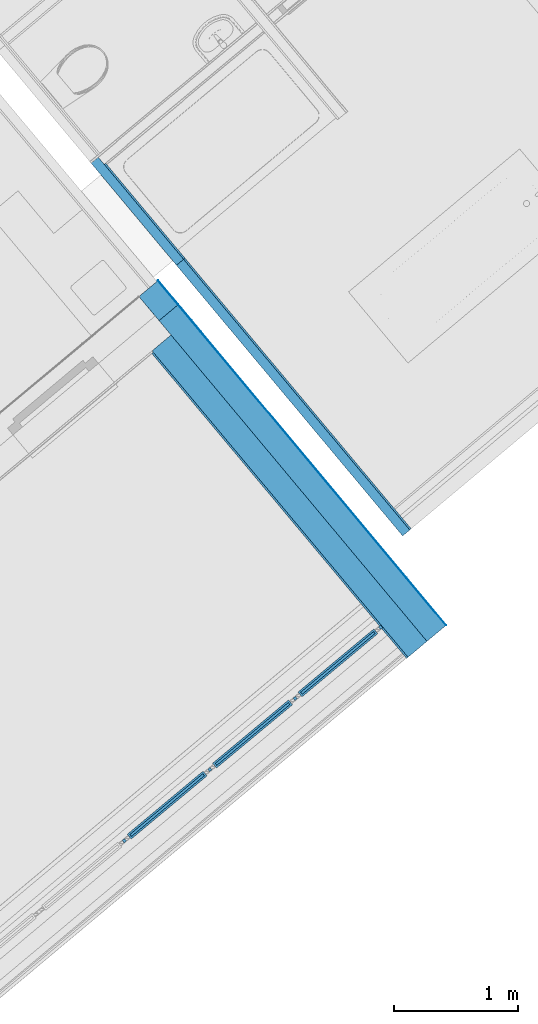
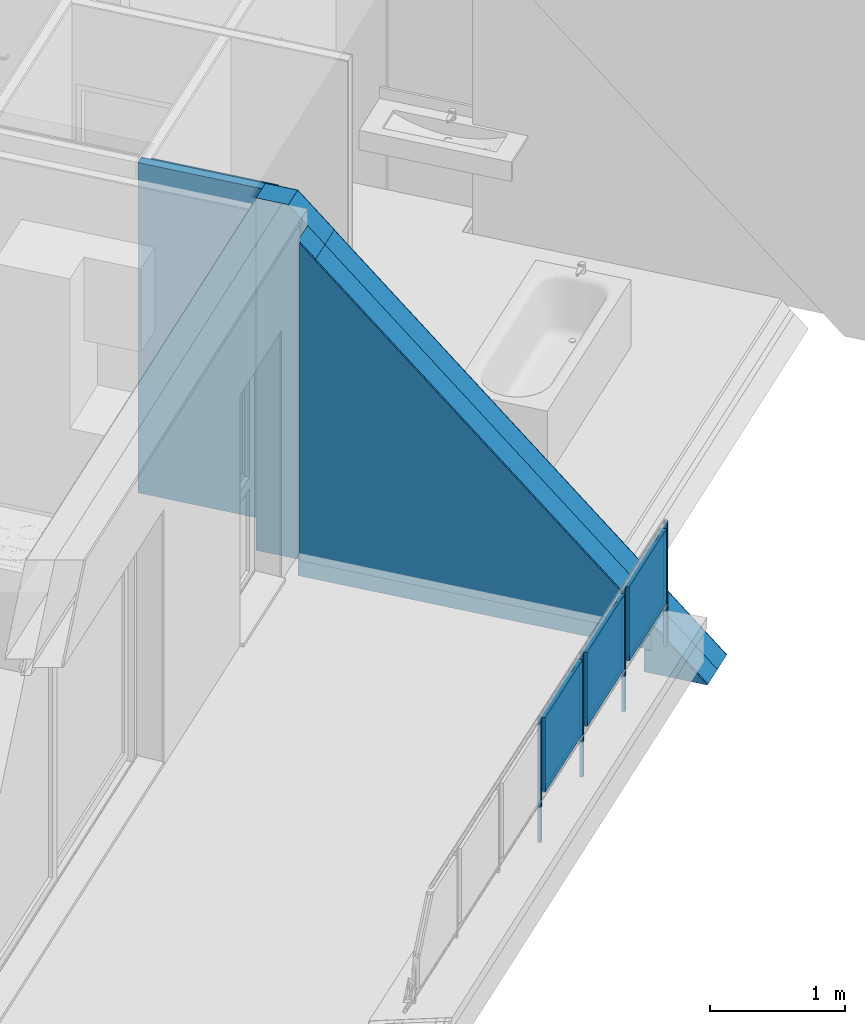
# One storey, part 17 of 50: 16 building element parts, 3 elements without a shape of their own.
"""IFC4 building model written with IfcOpenShell, lengths in metres."""

from ifc_helpers import new_model, entity, si_unit, converted_unit, derived_unit, direction, frame, origin_with_axes, place, context, subcontext, project, spatial, polygons, material, type_object, element, aggregate, save


model = new_model("IFC4")

# Units and contexts
model_context = context("Model", 3, precision=1e-05, world=origin_with_axes(), true_north=direction((0.0, 1.0)))
body_context = subcontext(model_context, "Body", "Model", "MODEL_VIEW")
ifc_project = project(units=[si_unit("LENGTHUNIT", "METRE"), si_unit("AREAUNIT", "SQUARE_METRE"), si_unit("VOLUMEUNIT", "CUBIC_METRE"), converted_unit("PLANEANGLEUNIT", "DEGREE", entity("IfcPlaneAngleMeasure", 0.0174532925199), si_unit("PLANEANGLEUNIT", "RADIAN"), dimensions=[0, 0, 0, 0, 0, 0, 0]), converted_unit("TIMEUNIT", "Year", entity("IfcTimeMeasure", 31556926.0), si_unit("TIMEUNIT", "SECOND"), dimensions=[0, 0, 1, 0, 0, 0, 0]), si_unit("MASSUNIT", "GRAM", prefix="KILO"), si_unit("THERMODYNAMICTEMPERATUREUNIT", "DEGREE_CELSIUS"), si_unit("LUMINOUSINTENSITYUNIT", "LUMEN"), si_unit("ENERGYUNIT", "JOULE", prefix="MEGA"), derived_unit("THERMALCONDUCTANCEUNIT", [(si_unit("POWERUNIT", "WATT"), 1), (si_unit("LENGTHUNIT", "METRE"), -1), (si_unit("THERMODYNAMICTEMPERATUREUNIT", "KELVIN"), -1)]), derived_unit("SPECIFICHEATCAPACITYUNIT", [(si_unit("ENERGYUNIT", "JOULE"), 1), (si_unit("MASSUNIT", "GRAM", prefix="KILO"), -1), (si_unit("THERMODYNAMICTEMPERATUREUNIT", "KELVIN"), -1)]), derived_unit("MASSDENSITYUNIT", [(si_unit("MASSUNIT", "GRAM", prefix="KILO"), 1), (si_unit("VOLUMEUNIT", "CUBIC_METRE"), -1)])], contexts=[model_context])

# Site, building, storey, space
site_placement = place(None, frame((-0.00153261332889, -0.00661245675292, 0.0), z_axis=(0.0, 0.0, 1.0), x_axis=(1.0, 0.0, 0.0)))
site = spatial("IfcSite", under=ifc_project, at=site_placement, Name="Gelände", CompositionType="ELEMENT")
building_placement = place(site_placement, origin_with_axes())
building = spatial("IfcBuilding", under=site, at=building_placement, Name="Gebäude", CompositionType="ELEMENT")
storey_placement = place(building_placement, frame((0.0, 0.0, 8.66), z_axis=(0.0, 0.0, 1.0), x_axis=(1.0, 0.0, 0.0)))
storey = spatial("IfcBuildingStorey", under=building, at=storey_placement, Name="DG2", CompositionType="ELEMENT", Elevation=8.66)
space_1_placement = place(storey_placement, frame((2.09467668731, 18.9197573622, 0.22), z_axis=(0.0, 0.0, 1.0), x_axis=(0.640870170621, -0.76764928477, 0.0)))
space_1 = spatial("IfcSpace", under=storey, at=space_1_placement, CompositionType="ELEMENT", PredefinedType="NOTDEFINED")

# Wall, building element parts
wall_type_1 = type_object("IfcWallType", Name="LB 9,0 cm einfache Vorsatzschale  90", PredefinedType="NOTDEFINED")
wall_1_placement = place(space_1_placement, frame((3.83735876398, 0.00169667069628, -0.22), z_axis=(0.0, 0.0, 1.0), x_axis=(-0.999999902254, -0.000442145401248, 0.0)))
wall_1 = element("IfcWall", 1, at=wall_1_placement, inside=space_1, type_object=wall_type_1, Name="Wand-006", PredefinedType="NOTDEFINED")
ifc_material_1 = material(Name="Mineralwolle weich")
building_element_part_1_placement = place(wall_1_placement, origin_with_axes())
building_element_part_1 = element("IfcBuildingElementPart", 2, at=building_element_part_1_placement, material=ifc_material_1, Name="Mineralwolle weich", PredefinedType="NOTDEFINED", context=body_context, shape_type="Tessellation", body=[
    polygons([(2.8510800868, 0.015, 2.98), (2.8510800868, 0.015, 2.85108792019), (-4.1342974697e-06, 0.0149999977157, 4.13429810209e-06), (3.92736578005, 0.015, 0.0), (3.92736578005, 0.015, 2.98), (2.85130138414, 0.09, 2.98), (2.85130138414, 0.09, 2.85135065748), (0.0, 0.09, 4.97085821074e-05), (0.0, 0.09, 0.0), (3.92739894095, 0.09, 0.0), (3.92739894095, 0.09, 2.98)], [[[1, 2, 3, 4, 5]], [[2, 1, 6, 7]], [[8, 3, 2, 7]], [[4, 3, 9, 10]], [[5, 4, 10, 11]], [[6, 1, 5, 11]], [[7, 6, 11, 10, 9, 8]], [[3, 8, 9]]], closed=True),
])
ifc_material_2 = material(Name="Gipskarton")
building_element_part_2_placement = place(wall_1_placement, origin_with_axes())
building_element_part_2 = element("IfcBuildingElementPart", 3, at=building_element_part_2_placement, material=ifc_material_2, Name="Gipskarton", PredefinedType="NOTDEFINED", context=body_context, shape_type="Tessellation", body=[
    polygons([(3.85235914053, 0.0, 0.0), (3.85236577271, 0.015, 0.0), (3.85236577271, 0.015, 2.98), (3.85235914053, 0.0, 2.98), (9.70048752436e-09, 0.0, -9.70048930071e-09), (0.0, 0.015, 8.26859620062e-06), (2.8510800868, 0.015, 2.98), (2.8510800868, 0.015, 2.85108792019), (2.85103582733, 0.0, 2.98), (2.85103582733, 0.0, 2.85103537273)], [[[1, 2, 3, 4]], [[2, 1, 5, 6]], [[7, 3, 2, 6, 8]], [[3, 7, 9, 4]], [[1, 4, 9, 10, 5]], [[10, 8, 6, 5]], [[7, 8, 10, 9]]], closed=True),
])
aggregate(wall_1, [building_element_part_1, building_element_part_2])

# Space
space_2_placement = place(storey_placement, frame((1.05261882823, 19.7011137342, 0.0), z_axis=(0.0, 0.0, 1.0), x_axis=(0.642552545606, -0.766241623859, 0.0)))
space_2 = spatial("IfcSpace", under=storey, at=space_2_placement, CompositionType="ELEMENT", PredefinedType="NOTDEFINED")

# Wall, building element parts
wall_type_2 = type_object("IfcWallType", Name="AW EG 420", PredefinedType="NOTDEFINED")
wall_2_placement = place(space_2_placement, frame((2.67260307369, -0.406165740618, -0.2), z_axis=(0.0, 0.0, 1.0), x_axis=(0.999998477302, -0.00174510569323, 0.0)))
wall_2 = element("IfcWall", 4, at=wall_2_placement, inside=space_2, type_object=wall_type_2, Name="Wand-002", PredefinedType="NOTDEFINED")
ifc_material_3 = material(Name="Zementputz")
building_element_part_3_placement = place(wall_2_placement, origin_with_axes())
building_element_part_3 = element("IfcBuildingElementPart", 5, at=building_element_part_3_placement, material=ifc_material_3, Name="Zementputz", PredefinedType="NOTDEFINED", context=body_context, shape_type="Tessellation", body=[
    polygons([(0.122189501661, 0.42, 3.0917140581), (0.122189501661, 0.42, 3.08944655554), (3.21163652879, 0.42, 0.0), (2.71272646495, 0.42, 0.0), (2.71272646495, 0.42, 0.2), (0.0, 0.42, 0.2), (-0.420270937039, 0.42, 0.2), (-0.420270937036, 0.42, 3.38), (-0.166096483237, 0.42, 3.38), (0.12219263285, 0.415, 3.09171365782), (0.12219263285, 0.415, 3.089446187), (3.21163929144, 0.415, 0.0), (2.71272968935, 0.415, 0.0), (2.71272968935, 0.415, 0.2), (0.0, 0.415, 0.2), (-0.420267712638, 0.415, 0.2), (-0.420267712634, 0.415, 3.38), (-0.166093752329, 0.415, 3.38)], [[[1, 2, 3, 4, 5, 6, 7, 8, 9]], [[2, 1, 10, 11]], [[12, 3, 2, 11]], [[3, 12, 13, 4]], [[4, 13, 14, 5]], [[5, 14, 15, 6]], [[15, 16, 7, 6]], [[16, 17, 8, 7]], [[8, 17, 18, 9]], [[10, 1, 9, 18]], [[11, 10, 18, 17, 16, 15, 14, 13, 12]]], closed=True),
])
ifc_material_4 = material(Name="Stahlbeton Wand")
building_element_part_4_placement = place(wall_2_placement, origin_with_axes())
building_element_part_4 = element("IfcBuildingElementPart", 6, at=building_element_part_4_placement, material=ifc_material_4, Name="Stahlbeton Wand", PredefinedType="NOTDEFINED", context=body_context, shape_type="Tessellation", body=[
    polygons([(0.12219263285, 0.415, 3.09171365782), (0.12219263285, 0.415, 3.089446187), (3.21163929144, 0.415, 0.0), (2.71272968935, 0.415, 0.0), (2.71272968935, 0.415, 0.2), (0.0, 0.415, 0.2), (-0.420267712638, 0.415, 0.2), (-0.420267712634, 0.415, 3.38), (-0.166093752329, 0.415, 3.38), (0.122317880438, 0.215, 3.09169764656), (0.122317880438, 0.215, 3.08943144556), (3.21174979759, 0.215, 0.0), (2.7128586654, 0.215, 0.0), (2.7128586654, 0.215, 0.2), (0.0, 0.215, 0.2), (-0.420138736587, 0.215, 0.2), (-0.420138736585, 0.215, 3.38), (-0.165984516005, 0.215, 3.38)], [[[1, 2, 3, 4, 5, 6, 7, 8, 9]], [[2, 1, 10, 11]], [[12, 3, 2, 11]], [[3, 12, 13, 4]], [[4, 13, 14, 5]], [[5, 14, 15, 6]], [[15, 16, 7, 6]], [[16, 17, 8, 7]], [[8, 17, 18, 9]], [[10, 1, 9, 18]], [[11, 10, 18, 17, 16, 15, 14, 13, 12]]], closed=True),
])
ifc_material_5 = material(Name="EPS 1")
building_element_part_5_placement = place(wall_2_placement, origin_with_axes())
building_element_part_5 = element("IfcBuildingElementPart", 7, at=building_element_part_5_placement, material=ifc_material_5, Name="EPS 1", PredefinedType="NOTDEFINED", context=body_context, shape_type="Tessellation", body=[
    polygons([(-0.165984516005, 0.215, 3.38), (-0.420138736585, 0.215, 3.38), (-0.420138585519, 0.214765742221, 3.38), (-0.165984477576, 0.214929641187, 3.38), (-0.0568807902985, 0.215, 3.27089629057), (-0.0568807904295, 0.215, 0.2), (-0.420138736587, 0.215, 0.2), (-0.420138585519, 0.214765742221, 0.2)], [[[1, 2, 3, 4]], [[2, 1, 5, 6, 7]], [[7, 8, 3, 2]], [[8, 6, 5, 4, 3]], [[4, 5, 1]], [[7, 6, 8]]], closed=True),
    polygons([(0.122317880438, 0.215, 3.09169764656), (0.122317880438, 0.215, 3.08943144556), (3.21174979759, 0.215, 0.0), (2.7128586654, 0.215, 0.0), (2.7128586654, 0.215, 0.2), (0.0, 0.215, 0.2), (-0.0151386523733, 0.215, 0.2), (-0.0151386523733, 0.215, 3.22915415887), (0.122443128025, 0.015, 3.0916816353), (0.122443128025, 0.015, 3.08941670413), (3.21186446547, 0.0149999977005, -4.16173592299e-06), (2.71298764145, 0.015, 0.0), (2.71298764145, 0.015, 0.2), (0.0, 0.015, 0.2), (-0.0150096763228, 0.015, 0.2), (-0.0150096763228, 0.015, 3.22913441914)], [[[1, 2, 3, 4, 5, 6, 7, 8]], [[2, 1, 9, 10]], [[11, 3, 2, 10]], [[3, 11, 12, 4]], [[4, 12, 13, 5]], [[5, 13, 14, 6]], [[14, 15, 7, 6]], [[16, 8, 7, 15]], [[9, 1, 8, 16]], [[10, 9, 16, 15, 14, 13, 12, 11]]], closed=True),
])
building_element_part_6_placement = place(wall_2_placement, origin_with_axes())
building_element_part_6 = element("IfcBuildingElementPart", 8, at=building_element_part_6_placement, material=ifc_material_3, Name="Zementputz", PredefinedType="NOTDEFINED", context=body_context, shape_type="Tessellation", body=[
    polygons([(0.122443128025, 0.015, 3.0916816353), (0.122443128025, 0.015, 3.08941670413), (3.21186030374, 0.015, 0.0), (2.71298764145, 0.015, 0.0), (2.71298764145, 0.015, 0.2), (2.76798765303, 0.015, 0.2), (2.76798765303, 0.015, 0.35), (-9.6732037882e-06, 0.015, 0.35), (-9.6732037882e-06, 0.015, 3.21413441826), (0.122452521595, 0.0, 3.09168043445), (0.122452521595, 0.0, 3.08941559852), (3.21186860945, 0.0, -1.77560259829e-08), (2.71299731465, 0.0, 0.0), (2.71299731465, 0.0, 0.2), (2.76799732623, 0.0, 0.2), (2.76799732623, 0.0, 0.35), (0.0, 0.0, 0.35), (0.0, 0.0, 3.21413293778)], [[[1, 2, 3, 4, 5, 6, 7, 8, 9]], [[2, 1, 10, 11]], [[12, 3, 2, 11]], [[3, 12, 13, 4]], [[5, 4, 13, 14]], [[5, 14, 15, 6]], [[6, 15, 16, 7]], [[7, 16, 17, 8]], [[17, 18, 9, 8]], [[10, 1, 9, 18]], [[11, 10, 18, 17, 16, 15, 14, 13, 12]]], closed=True),
])
aggregate(wall_2, [building_element_part_3, building_element_part_4, building_element_part_5, building_element_part_6])

# Space
space_3_placement = place(storey_placement, frame((2.45868563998, 17.3922711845, 0.22), z_axis=(0.0, 0.0, 1.0), x_axis=(-0.766948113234, -0.641709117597, 0.0)))
space_3 = spatial("IfcSpace", under=storey, at=space_3_placement, CompositionType="ELEMENT", PredefinedType="NOTDEFINED")

# Railing, building element parts
railing_type = type_object("IfcRailingType", Name="Geländerart", PredefinedType="NOTDEFINED")
railing_placement = place(space_3_placement, frame((7.13717596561, 0.00077071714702, 0.16), z_axis=(0.0, 0.0, 1.0), x_axis=(-0.766948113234, 0.641709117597, 0.0)))
railing = element("IfcRailing", 9, at=railing_placement, inside=space_3, type_object=railing_type, Name="Geländer - 001", PredefinedType="NOTDEFINED")
ifc_material_6 = material(Name="Aluminium")
building_element_part_7_placement = place(railing_placement, origin_with_axes())
building_element_part_7 = element("IfcBuildingElementPart", 10, at=building_element_part_7_placement, material=ifc_material_6, Name="Aluminium", PredefinedType="NOTDEFINED", context=body_context, shape_type="Tessellation", body=[
    polygons([(7.34033246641, 2.36563783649, -0.3), (7.32433354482, 2.38484810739, -0.3), (7.32433354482, 2.38484810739, 0.82), (7.34033246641, 2.36563783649, 0.82), (7.32112219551, 2.34963891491, -0.3), (7.30512327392, 2.36884918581, -0.3), (7.30512327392, 2.36884918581, 0.82), (7.32112219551, 2.34963891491, 0.82)], [[[1, 2, 3, 4]], [[1, 5, 6, 2]], [[2, 6, 7, 3]], [[4, 3, 7, 8]], [[5, 1, 4, 8]], [[6, 5, 8, 7]]], closed=True),
])
building_element_part_8_placement = place(railing_placement, origin_with_axes())
building_element_part_8 = element("IfcBuildingElementPart", 11, at=building_element_part_8_placement, material=ifc_material_6, Name="Aluminium", PredefinedType="NOTDEFINED", context=body_context, shape_type="Tessellation", body=[
    polygons([(5.26964400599, 0.641102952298, -0.3), (5.25364508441, 0.6603132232, -0.3), (5.25364508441, 0.6603132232, 0.82), (5.26964400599, 0.641102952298, 0.82), (5.25043373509, 0.625104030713, -0.3), (5.23443481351, 0.644314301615, -0.3), (5.23443481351, 0.644314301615, 0.82), (5.25043373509, 0.625104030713, 0.82)], [[[1, 2, 3, 4]], [[1, 5, 6, 2]], [[2, 6, 7, 3]], [[4, 3, 7, 8]], [[5, 1, 4, 8]], [[6, 5, 8, 7]]], closed=True),
])
ifc_material_7 = material(Name="Profilit")
building_element_part_9_placement = place(railing_placement, origin_with_axes())
building_element_part_9 = element("IfcBuildingElementPart", 12, at=building_element_part_9_placement, material=ifc_material_7, Name="Profilit", PredefinedType="NOTDEFINED", context=body_context, shape_type="Tessellation", body=[
    polygons([(5.88592262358, 1.18364050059, 0.135), (5.29558654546, 0.691989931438, 0.135), (5.29558654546, 0.691989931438, 0.775), (5.88592262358, 1.18364050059, 0.775), (5.30838568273, 0.676621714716, 0.135), (5.89872176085, 1.16827228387, 0.135), (5.30838568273, 0.676621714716, 0.775), (5.89872176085, 1.16827228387, 0.775)], [[[1, 2, 3, 4]], [[5, 2, 1, 6]], [[7, 3, 2, 5]], [[4, 3, 7, 8]], [[1, 4, 8, 6]], [[7, 5, 6, 8]]], closed=True),
])
building_element_part_10_placement = place(railing_placement, origin_with_axes())
building_element_part_10 = element("IfcBuildingElementPart", 13, at=building_element_part_10_placement, material=ifc_material_6, Name="Aluminium", PredefinedType="NOTDEFINED", context=body_context, shape_type="Tessellation", body=[
    polygons([(5.365701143, 0.740623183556, 0.12), (5.41948990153, 0.785420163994, 0.12), (5.41948990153, 0.785420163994, 0.095), (5.365701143, 0.740623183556, 0.095), (5.36890092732, 0.736781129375, 0.12), (5.42268968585, 0.781578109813, 0.12), (5.42268968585, 0.781578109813, 0.095), (5.36890092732, 0.736781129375, 0.095)], [[[1, 2, 3, 4]], [[5, 6, 2, 1]], [[2, 6, 7, 3]], [[4, 3, 7, 8]], [[1, 4, 8, 5]], [[8, 7, 6, 5]]], closed=True),
    polygons([(5.82540737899, 1.12348108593, 0.79), (5.77161862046, 1.0786841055, 0.79), (5.77161862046, 1.0786841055, 0.795), (5.82540737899, 1.12348108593, 0.795), (5.8286071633, 1.11963903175, 0.79), (5.77481840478, 1.07484205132, 0.79), (5.77481840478, 1.07484205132, 0.795), (5.8286071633, 1.11963903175, 0.795)], [[[1, 2, 3, 4]], [[5, 6, 2, 1]], [[2, 6, 7, 3]], [[4, 3, 7, 8]], [[1, 4, 8, 5]], [[8, 7, 6, 5]]], closed=True),
    polygons([(5.30645887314, 0.655496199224, 0.12), (5.27446102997, 0.693916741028, 0.12), (5.88784943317, 1.20476601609, 0.12), (5.91984727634, 1.16634547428, 0.12), (5.32182708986, 0.668295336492, 0.14), (5.31222773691, 0.679821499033, 0.14), (5.30838568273, 0.676621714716, 0.135), (5.29558654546, 0.691989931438, 0.135), (5.29942859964, 0.695189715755, 0.14), (5.28982924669, 0.706715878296, 0.14), (5.87248121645, 1.19196687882, 0.14), (5.87248121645, 1.19196687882, 0.77), (5.28982924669, 0.706715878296, 0.77), (5.28982924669, 0.706715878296, 0.14), (5.27446102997, 0.693916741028, 0.12), (5.27446102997, 0.693916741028, 0.79), (5.88784943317, 1.20476601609, 0.79), (5.91984727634, 1.16634547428, 0.79), (5.30645887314, 0.655496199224, 0.79), (5.30645887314, 0.655496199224, 0.12), (5.32182708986, 0.668295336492, 0.14), (5.32182708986, 0.668295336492, 0.77), (5.90447905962, 1.15354633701, 0.77), (5.90447905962, 1.15354633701, 0.14), (5.89487970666, 1.16507249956, 0.14), (5.89487970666, 1.16507249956, 0.77), (5.31222773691, 0.679821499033, 0.77), (5.31222773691, 0.679821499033, 0.14), (5.30838568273, 0.676621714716, 0.135), (5.30838568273, 0.676621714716, 0.775), (5.89872176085, 1.16827228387, 0.775), (5.89872176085, 1.16827228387, 0.135), (5.88592262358, 1.18364050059, 0.135), (5.88592262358, 1.18364050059, 0.775), (5.29558654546, 0.691989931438, 0.775), (5.29558654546, 0.691989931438, 0.135), (5.29942859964, 0.695189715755, 0.14), (5.29942859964, 0.695189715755, 0.77), (5.8820805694, 1.18044071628, 0.77), (5.8820805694, 1.18044071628, 0.14)], [[[1, 2, 3, 4]], [[1, 5, 6, 7, 8, 9, 10, 2]], [[2, 10, 11, 12, 13, 14, 15, 16, 17, 3]], [[4, 3, 17, 18]], [[5, 1, 4, 18, 19, 20, 21, 22, 23, 24]], [[6, 5, 24, 25]], [[7, 6, 25, 26, 27, 28, 29, 30, 31, 32]], [[8, 7, 32, 33]], [[9, 8, 33, 34, 35, 36, 37, 38, 39, 40]], [[10, 9, 40, 11]], [[11, 40, 39, 12]], [[12, 39, 38, 13]], [[13, 38, 37, 14]], [[20, 15, 14, 37, 36, 29, 28, 21]], [[19, 16, 15, 20]], [[18, 17, 16, 19]], [[27, 22, 21, 28]], [[26, 23, 22, 27]], [[25, 24, 23, 26]], [[35, 30, 29, 36]], [[34, 31, 30, 35]], [[33, 32, 31, 34]]], closed=True),
])
building_element_part_11_placement = place(railing_placement, origin_with_axes())
building_element_part_11 = element("IfcBuildingElementPart", 14, at=building_element_part_11_placement, material=ifc_material_6, Name="Aluminium", PredefinedType="NOTDEFINED", context=body_context, shape_type="Tessellation", body=[
    polygons([(5.9598734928, 1.2159479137, -0.3), (5.94387457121, 1.2351581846, -0.3), (5.94387457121, 1.2351581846, 0.82), (5.9598734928, 1.2159479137, 0.82), (5.9406632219, 1.19994899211, -0.3), (5.92466430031, 1.21915926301, -0.3), (5.92466430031, 1.21915926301, 0.82), (5.9406632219, 1.19994899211, 0.82)], [[[1, 2, 3, 4]], [[1, 5, 6, 2]], [[2, 6, 7, 3]], [[4, 3, 7, 8]], [[5, 1, 4, 8]], [[6, 5, 8, 7]]], closed=True),
])
building_element_part_12_placement = place(railing_placement, origin_with_axes())
building_element_part_12 = element("IfcBuildingElementPart", 15, at=building_element_part_12_placement, material=ifc_material_7, Name="Profilit", PredefinedType="NOTDEFINED", context=body_context, shape_type="Tessellation", body=[
    polygons([(6.57615211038, 1.75848546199, 0.135), (5.98581603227, 1.26683489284, 0.135), (5.98581603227, 1.26683489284, 0.775), (6.57615211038, 1.75848546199, 0.775), (5.99861516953, 1.25146667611, 0.135), (6.58895124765, 1.74311724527, 0.135), (5.99861516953, 1.25146667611, 0.775), (6.58895124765, 1.74311724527, 0.775)], [[[1, 2, 3, 4]], [[5, 2, 1, 6]], [[7, 3, 2, 5]], [[4, 3, 7, 8]], [[1, 4, 8, 6]], [[7, 5, 6, 8]]], closed=True),
])
building_element_part_13_placement = place(railing_placement, origin_with_axes())
building_element_part_13 = element("IfcBuildingElementPart", 16, at=building_element_part_13_placement, material=ifc_material_6, Name="Aluminium", PredefinedType="NOTDEFINED", context=body_context, shape_type="Tessellation", body=[
    polygons([(6.05593062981, 1.31546814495, 0.12), (6.10971938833, 1.36026512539, 0.12), (6.10971938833, 1.36026512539, 0.095), (6.05593062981, 1.31546814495, 0.095), (6.05913041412, 1.31162609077, 0.12), (6.11291917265, 1.35642307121, 0.12), (6.11291917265, 1.35642307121, 0.095), (6.05913041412, 1.31162609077, 0.095)], [[[1, 2, 3, 4]], [[5, 6, 2, 1]], [[2, 6, 7, 3]], [[4, 3, 7, 8]], [[1, 4, 8, 5]], [[8, 7, 6, 5]]], closed=True),
    polygons([(6.51563686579, 1.69832604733, 0.79), (6.46184810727, 1.6535290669, 0.79), (6.46184810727, 1.6535290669, 0.795), (6.51563686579, 1.69832604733, 0.795), (6.51883665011, 1.69448399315, 0.79), (6.46504789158, 1.64968701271, 0.79), (6.46504789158, 1.64968701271, 0.795), (6.51883665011, 1.69448399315, 0.795)], [[[1, 2, 3, 4]], [[5, 6, 2, 1]], [[2, 6, 7, 3]], [[4, 3, 7, 8]], [[1, 4, 8, 5]], [[8, 7, 6, 5]]], closed=True),
    polygons([(5.99668835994, 1.23034116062, 0.12), (5.96469051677, 1.26876170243, 0.12), (6.57807891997, 1.77961097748, 0.12), (6.61007676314, 1.74119043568, 0.12), (6.01205657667, 1.24314029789, 0.14), (6.00245722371, 1.25466646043, 0.14), (5.99861516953, 1.25146667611, 0.135), (5.98581603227, 1.26683489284, 0.135), (5.98965808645, 1.27003467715, 0.14), (5.9800587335, 1.28156083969, 0.14), (6.56271070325, 1.76681184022, 0.14), (6.56271070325, 1.76681184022, 0.77), (5.9800587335, 1.28156083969, 0.77), (5.9800587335, 1.28156083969, 0.14), (5.96469051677, 1.26876170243, 0.12), (5.96469051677, 1.26876170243, 0.79), (6.57807891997, 1.77961097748, 0.79), (6.61007676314, 1.74119043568, 0.79), (5.99668835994, 1.23034116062, 0.79), (5.99668835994, 1.23034116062, 0.12), (6.01205657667, 1.24314029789, 0.14), (6.01205657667, 1.24314029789, 0.77), (6.59470854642, 1.72839129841, 0.77), (6.59470854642, 1.72839129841, 0.14), (6.58510919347, 1.73991746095, 0.14), (6.58510919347, 1.73991746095, 0.77), (6.00245722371, 1.25466646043, 0.77), (6.00245722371, 1.25466646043, 0.14), (5.99861516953, 1.25146667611, 0.135), (5.99861516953, 1.25146667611, 0.775), (6.58895124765, 1.74311724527, 0.775), (6.58895124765, 1.74311724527, 0.135), (6.57615211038, 1.75848546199, 0.135), (6.57615211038, 1.75848546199, 0.775), (5.98581603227, 1.26683489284, 0.775), (5.98581603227, 1.26683489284, 0.135), (5.98965808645, 1.27003467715, 0.14), (5.98965808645, 1.27003467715, 0.77), (6.5723100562, 1.75528567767, 0.77), (6.5723100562, 1.75528567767, 0.14)], [[[1, 2, 3, 4]], [[1, 5, 6, 7, 8, 9, 10, 2]], [[2, 10, 11, 12, 13, 14, 15, 16, 17, 3]], [[4, 3, 17, 18]], [[5, 1, 4, 18, 19, 20, 21, 22, 23, 24]], [[6, 5, 24, 25]], [[7, 6, 25, 26, 27, 28, 29, 30, 31, 32]], [[8, 7, 32, 33]], [[9, 8, 33, 34, 35, 36, 37, 38, 39, 40]], [[10, 9, 40, 11]], [[11, 40, 39, 12]], [[12, 39, 38, 13]], [[13, 38, 37, 14]], [[20, 15, 14, 37, 36, 29, 28, 21]], [[19, 16, 15, 20]], [[18, 17, 16, 19]], [[27, 22, 21, 28]], [[26, 23, 22, 27]], [[25, 24, 23, 26]], [[35, 30, 29, 36]], [[34, 31, 30, 35]], [[33, 32, 31, 34]]], closed=True),
])
building_element_part_14_placement = place(railing_placement, origin_with_axes())
building_element_part_14 = element("IfcBuildingElementPart", 17, at=building_element_part_14_placement, material=ifc_material_6, Name="Aluminium", PredefinedType="NOTDEFINED", context=body_context, shape_type="Tessellation", body=[
    polygons([(6.6501029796, 1.79079287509, -0.3), (6.63410405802, 1.810003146, -0.3), (6.63410405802, 1.810003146, 0.82), (6.6501029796, 1.79079287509, 0.82), (6.6308927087, 1.77479395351, -0.3), (6.61489378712, 1.79400422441, -0.3), (6.61489378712, 1.79400422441, 0.82), (6.6308927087, 1.77479395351, 0.82)], [[[1, 2, 3, 4]], [[1, 5, 6, 2]], [[2, 6, 7, 3]], [[4, 3, 7, 8]], [[5, 1, 4, 8]], [[6, 5, 8, 7]]], closed=True),
])
building_element_part_15_placement = place(railing_placement, origin_with_axes())
building_element_part_15 = element("IfcBuildingElementPart", 18, at=building_element_part_15_placement, material=ifc_material_7, Name="Profilit", PredefinedType="NOTDEFINED", context=body_context, shape_type="Tessellation", body=[
    polygons([(7.26638159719, 2.33333042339, 0.135), (6.67604551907, 1.84167985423, 0.135), (6.67604551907, 1.84167985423, 0.775), (7.26638159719, 2.33333042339, 0.775), (6.68884465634, 1.82631163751, 0.135), (7.27918073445, 2.31796220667, 0.135), (6.68884465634, 1.82631163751, 0.775), (7.27918073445, 2.31796220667, 0.775)], [[[1, 2, 3, 4]], [[5, 2, 1, 6]], [[7, 3, 2, 5]], [[4, 3, 7, 8]], [[1, 4, 8, 6]], [[7, 5, 6, 8]]], closed=True),
])
building_element_part_16_placement = place(railing_placement, origin_with_axes())
building_element_part_16 = element("IfcBuildingElementPart", 19, at=building_element_part_16_placement, material=ifc_material_6, Name="Aluminium", PredefinedType="NOTDEFINED", context=body_context, shape_type="Tessellation", body=[
    polygons([(6.74616011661, 1.89031310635, 0.12), (6.79994887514, 1.93511008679, 0.12), (6.79994887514, 1.93511008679, 0.095), (6.74616011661, 1.89031310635, 0.095), (6.74935990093, 1.88647105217, 0.12), (6.80314865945, 1.93126803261, 0.12), (6.80314865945, 1.93126803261, 0.095), (6.74935990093, 1.88647105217, 0.095)], [[[1, 2, 3, 4]], [[5, 6, 2, 1]], [[2, 6, 7, 3]], [[4, 3, 7, 8]], [[1, 4, 8, 5]], [[8, 7, 6, 5]]], closed=True),
    polygons([(7.2058663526, 2.27317100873, 0.79), (7.15207759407, 2.22837402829, 0.79), (7.15207759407, 2.22837402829, 0.795), (7.2058663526, 2.27317100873, 0.795), (7.20906613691, 2.26932895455, 0.79), (7.15527737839, 2.22453197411, 0.79), (7.15527737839, 2.22453197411, 0.795), (7.20906613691, 2.26932895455, 0.795)], [[[1, 2, 3, 4]], [[5, 6, 2, 1]], [[2, 6, 7, 3]], [[4, 3, 7, 8]], [[1, 4, 8, 5]], [[8, 7, 6, 5]]], closed=True),
    polygons([(6.68691784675, 1.80518612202, 0.12), (6.65492000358, 1.84360666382, 0.12), (7.26830840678, 2.35445593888, 0.12), (7.30030624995, 2.31603539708, 0.12), (6.70228606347, 1.81798525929, 0.14), (6.69268671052, 1.82951142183, 0.14), (6.68884465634, 1.82631163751, 0.135), (6.67604551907, 1.84167985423, 0.135), (6.67988757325, 1.84487963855, 0.14), (6.6702882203, 1.85640580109, 0.14), (7.25294019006, 2.34165680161, 0.14), (7.25294019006, 2.34165680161, 0.77), (6.6702882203, 1.85640580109, 0.77), (6.6702882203, 1.85640580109, 0.14), (6.65492000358, 1.84360666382, 0.12), (6.65492000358, 1.84360666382, 0.79), (7.26830840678, 2.35445593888, 0.79), (7.30030624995, 2.31603539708, 0.79), (6.68691784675, 1.80518612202, 0.79), (6.68691784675, 1.80518612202, 0.12), (6.70228606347, 1.81798525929, 0.14), (6.70228606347, 1.81798525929, 0.77), (7.28493803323, 2.30323625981, 0.77), (7.28493803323, 2.30323625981, 0.14), (7.27533868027, 2.31476242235, 0.14), (7.27533868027, 2.31476242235, 0.77), (6.69268671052, 1.82951142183, 0.77), (6.69268671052, 1.82951142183, 0.14), (6.68884465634, 1.82631163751, 0.135), (6.68884465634, 1.82631163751, 0.775), (7.27918073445, 2.31796220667, 0.775), (7.27918073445, 2.31796220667, 0.135), (7.26638159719, 2.33333042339, 0.135), (7.26638159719, 2.33333042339, 0.775), (6.67604551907, 1.84167985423, 0.775), (6.67604551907, 1.84167985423, 0.135), (6.67988757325, 1.84487963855, 0.14), (6.67988757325, 1.84487963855, 0.77), (7.26253954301, 2.33013063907, 0.77), (7.26253954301, 2.33013063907, 0.14)], [[[1, 2, 3, 4]], [[1, 5, 6, 7, 8, 9, 10, 2]], [[2, 10, 11, 12, 13, 14, 15, 16, 17, 3]], [[4, 3, 17, 18]], [[5, 1, 4, 18, 19, 20, 21, 22, 23, 24]], [[6, 5, 24, 25]], [[7, 6, 25, 26, 27, 28, 29, 30, 31, 32]], [[8, 7, 32, 33]], [[9, 8, 33, 34, 35, 36, 37, 38, 39, 40]], [[10, 9, 40, 11]], [[11, 40, 39, 12]], [[12, 39, 38, 13]], [[13, 38, 37, 14]], [[20, 15, 14, 37, 36, 29, 28, 21]], [[19, 16, 15, 20]], [[18, 17, 16, 19]], [[27, 22, 21, 28]], [[26, 23, 22, 27]], [[25, 24, 23, 26]], [[35, 30, 29, 36]], [[34, 31, 30, 35]], [[33, 32, 31, 34]]], closed=True),
])
aggregate(railing, [building_element_part_7, building_element_part_8, building_element_part_9, building_element_part_10, building_element_part_11, building_element_part_12, building_element_part_13, building_element_part_14, building_element_part_15, building_element_part_16])

save(model, "model.ifc")
